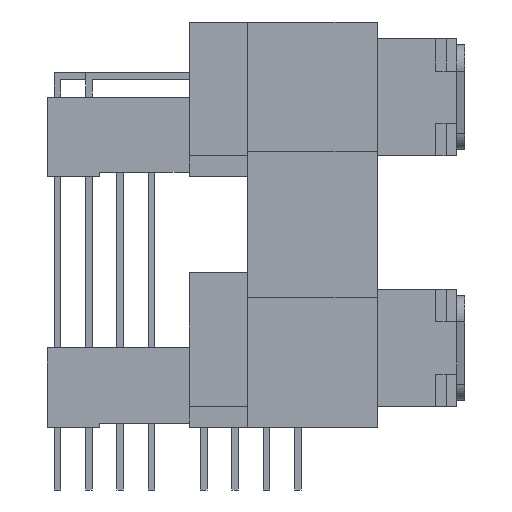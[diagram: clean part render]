
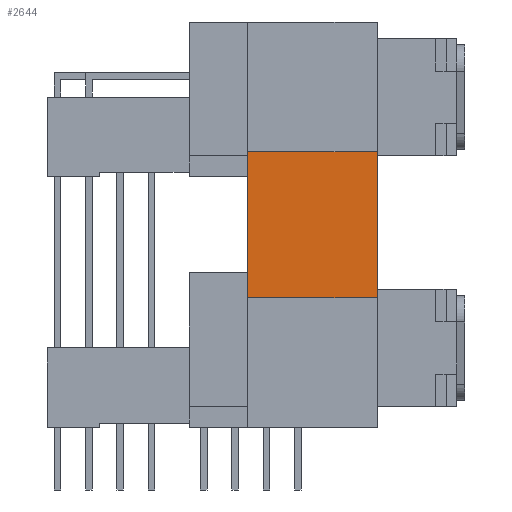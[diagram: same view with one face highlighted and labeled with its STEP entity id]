
A CAD part, left-side view. The second image highlights one B-rep face of the part: STEP entity #2644.
In plain terms, the highlighted planar face has unit normal (-1, 0, 0).
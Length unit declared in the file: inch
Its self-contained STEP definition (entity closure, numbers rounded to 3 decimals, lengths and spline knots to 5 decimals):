
#267=PLANE('',#16231);
#885=LINE('',#19836,#1835);
#958=LINE('',#21121,#1908);
#961=LINE('',#21317,#1911);
#963=LINE('',#21321,#1913);
#1835=VECTOR('',#17062,1.);
#1908=VECTOR('',#17175,1.);
#1911=VECTOR('',#17188,1.);
#1913=VECTOR('',#17194,1.);
#2644=ADVANCED_FACE('',(#4182),#267,.T.);
#4182=FACE_OUTER_BOUND('',#5151,.T.);
#5151=EDGE_LOOP('',(#7386,#7387,#7388,#7389));
#7386=ORIENTED_EDGE('',*,*,#13252,.T.);
#7387=ORIENTED_EDGE('',*,*,#12844,.F.);
#7388=ORIENTED_EDGE('',*,*,#13250,.F.);
#7389=ORIENTED_EDGE('',*,*,#13191,.F.);
#11124=VERTEX_POINT('',#19835);
#11125=VERTEX_POINT('',#19837);
#11389=VERTEX_POINT('',#21120);
#11390=VERTEX_POINT('',#21122);
#12844=EDGE_CURVE('',#11124,#11125,#885,.T.);
#13191=EDGE_CURVE('',#11389,#11390,#958,.T.);
#13250=EDGE_CURVE('',#11390,#11124,#961,.T.);
#13252=EDGE_CURVE('',#11389,#11125,#963,.T.);
#16231=AXIS2_PLACEMENT_3D('',#21322,#17195,#17196);
#17062=DIRECTION('',(0.,0.,1.));
#17175=DIRECTION('',(0.,0.,-1.));
#17188=DIRECTION('',(0.,1.,0.));
#17194=DIRECTION('',(0.,1.,0.));
#17195=DIRECTION('',(-1.,0.,0.));
#17196=DIRECTION('',(0.,0.,1.));
#19835=CARTESIAN_POINT('',(-0.855,0.0075,0.31));
#19836=CARTESIAN_POINT('',(-0.855,0.0075,0.485));
#19837=CARTESIAN_POINT('',(-0.855,0.0075,0.66));
#21120=CARTESIAN_POINT('',(-0.855,-0.3025,0.66));
#21121=CARTESIAN_POINT('',(-0.855,-0.3025,0.485));
#21122=CARTESIAN_POINT('',(-0.855,-0.3025,0.31));
#21317=CARTESIAN_POINT('',(-0.855,-0.3025,0.31));
#21321=CARTESIAN_POINT('',(-0.855,-0.2325,0.66));
#21322=CARTESIAN_POINT('',(-0.855,-0.2325,0.485));
